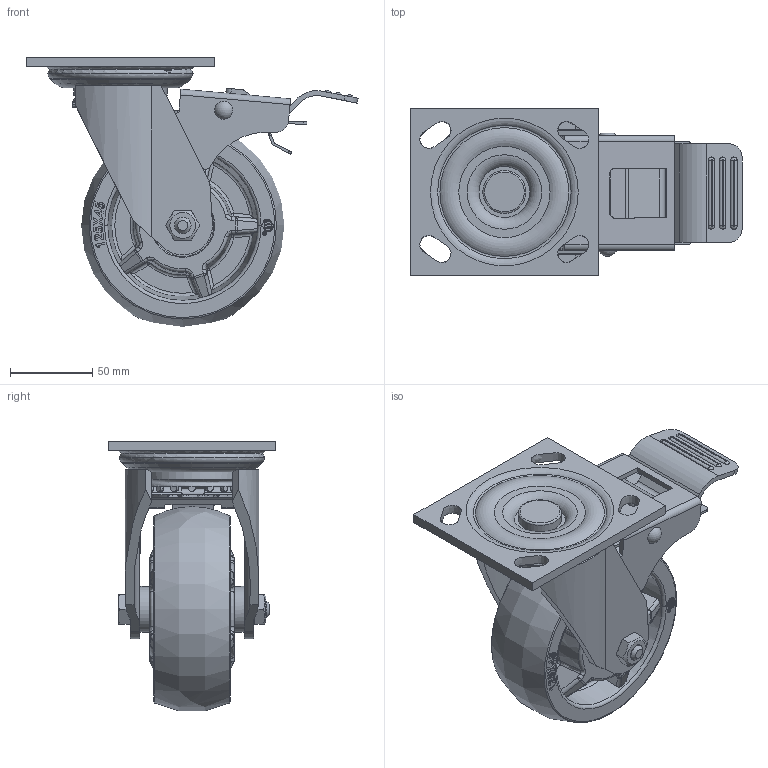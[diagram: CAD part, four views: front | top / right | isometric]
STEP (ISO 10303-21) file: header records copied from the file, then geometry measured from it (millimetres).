
FILE_DESCRIPTION(/* description */ (''),/* implementation_level */ '2;1');
FILE_NAME(/* name */ '35C07_5_R.stp',/* time_stamp */ '2022-08-29T08:25:18+08:00',/* author */ (''),/* organization */ (''),/* preprocessor_version */ 'ST-DEVELOPER v14',/* originating_system */ 'SIEMENS PLM Software NX 8.0',/* authorisation */ '');
FILE_SCHEMA (('AUTOMOTIVE_DESIGN { 1 0 10303 214 3 1 1 1 }'));
Products named in the file (1): 35C07_5_R
Bounding box: 202.28 x 102 x 164.37 mm (x, y, z)
Surface area: 191048.3 mm2 (no closed solid volume)
Topology: 0 solids, 1 shells, 1606 faces, 4449 edges, 2896 vertices
Faces by surface type: plane 929, cylinder 406, bspline 88, torus 68, extrusion 48, cone 41, sphere 26
Full cylindrical faces by diameter (mm): 4 x1, 6 x1, 6.2 x2, 10.104 x2, 12 x1, 12.2 x2, 16.2 x1, 16.3 x1, 17 x2, 20.5 x2, 22.276 x1, 24.188 x4, 26.256 x1, 28 x2, 32.812 x2, 40 x1, 57 x1
Entity records: 58078 total; most frequent: CARTESIAN_POINT 18462, ORIENTED_EDGE 8514, DIRECTION 7758, EDGE_CURVE 4257, VERTEX_POINT 2815, AXIS2_PLACEMENT_3D 2719, VECTOR 2320, LINE 2272
